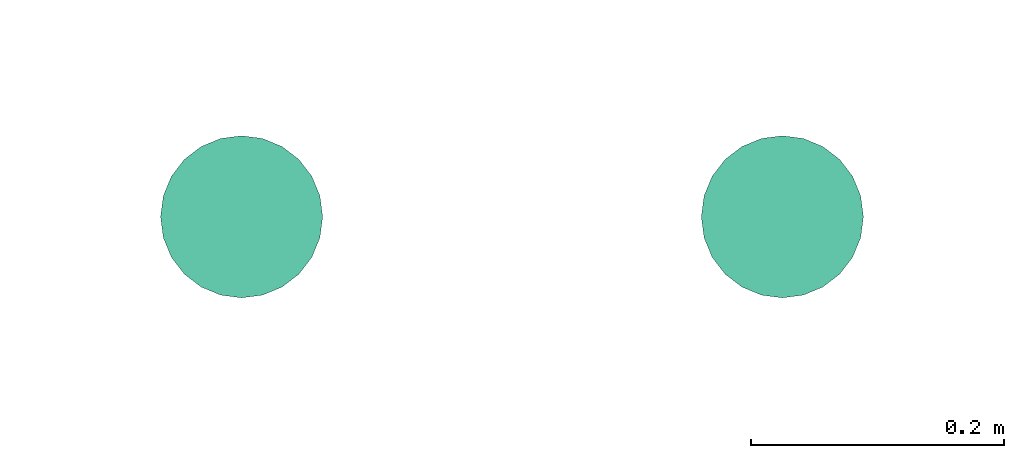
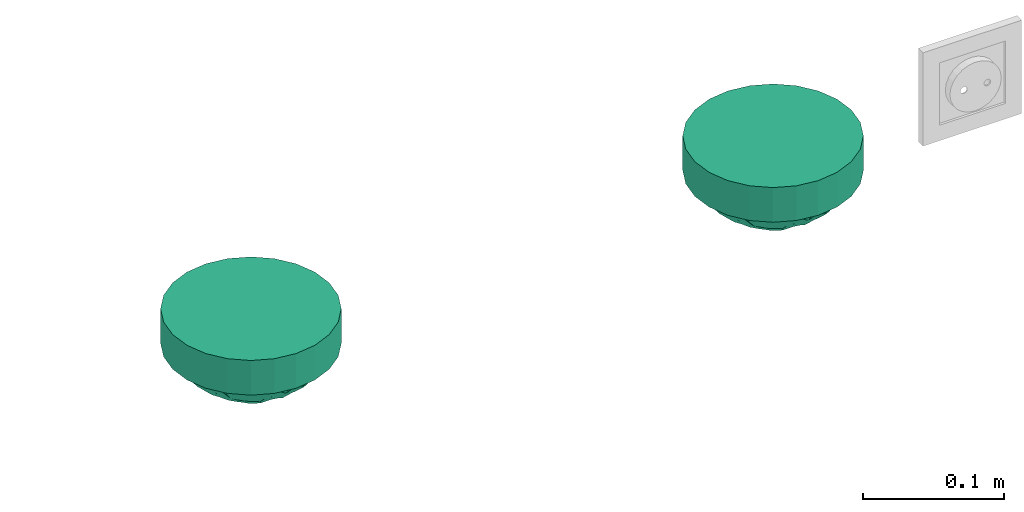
# One storey, part 30 of 146: 2 flow terminals.
"""IFC2X3 building model written with IfcOpenShell, lengths in metres."""

from ifc_helpers import new_model, entity, si_unit, converted_unit, derived_unit, direction, frame, origin, place, context, subcontext, project, spatial, faceted_brep, source, transform, mapped, type_object, type_shapes, element, save


model = new_model("IFC2X3")

# Units and contexts
model_context = context("Model", 3, precision=1e-05, world=origin(), true_north=direction((6.12303176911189e-17, 1.0)))
body_context = subcontext(model_context, "Body", "Model", "MODEL_VIEW")
ifc_project = project(units=[si_unit("LENGTHUNIT", "METRE"), si_unit("AREAUNIT", "SQUARE_METRE"), si_unit("VOLUMEUNIT", "CUBIC_METRE"), converted_unit("PLANEANGLEUNIT", "DEGREE", entity("IfcRatioMeasure", 0.0174532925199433), si_unit("PLANEANGLEUNIT", "RADIAN"), dimensions=[0, 0, 0, 0, 0, 0, 0]), si_unit("MASSUNIT", "GRAM", prefix="KILO"), derived_unit("MASSDENSITYUNIT", [(si_unit("MASSUNIT", "GRAM", prefix="KILO"), 1), (si_unit("LENGTHUNIT", "METRE"), -3)]), si_unit("TIMEUNIT", "SECOND"), si_unit("FREQUENCYUNIT", "HERTZ"), si_unit("THERMODYNAMICTEMPERATUREUNIT", "DEGREE_CELSIUS"), derived_unit("THERMALTRANSMITTANCEUNIT", [(si_unit("MASSUNIT", "GRAM", prefix="KILO"), 1), (si_unit("THERMODYNAMICTEMPERATUREUNIT", "KELVIN"), -1), (si_unit("TIMEUNIT", "SECOND"), -3)]), derived_unit("VOLUMETRICFLOWRATEUNIT", [(si_unit("LENGTHUNIT", "METRE"), 3), (si_unit("TIMEUNIT", "SECOND"), -1)]), si_unit("ELECTRICCURRENTUNIT", "AMPERE"), si_unit("ELECTRICVOLTAGEUNIT", "VOLT"), si_unit("POWERUNIT", "WATT"), si_unit("FORCEUNIT", "NEWTON"), si_unit("ILLUMINANCEUNIT", "LUX"), si_unit("LUMINOUSFLUXUNIT", "LUMEN"), si_unit("LUMINOUSINTENSITYUNIT", "CANDELA"), derived_unit("USERDEFINED", [(si_unit("MASSUNIT", "GRAM", prefix="KILO"), -1), (si_unit("LENGTHUNIT", "METRE"), -2), (si_unit("TIMEUNIT", "SECOND"), 3), (si_unit("LUMINOUSFLUXUNIT", "LUMEN"), 1)]), derived_unit("LINEARVELOCITYUNIT", [(si_unit("LENGTHUNIT", "METRE"), 1), (si_unit("TIMEUNIT", "SECOND"), -1)]), si_unit("PRESSUREUNIT", "PASCAL"), derived_unit("USERDEFINED", [(si_unit("LENGTHUNIT", "METRE"), -2), (si_unit("MASSUNIT", "GRAM", prefix="KILO"), 1), (si_unit("TIMEUNIT", "SECOND"), -2)])], contexts=[model_context])

# Site, building, storey
site_placement = place(None, origin())
site = spatial("IfcSite", under=ifc_project, at=site_placement, Name="Default", CompositionType="ELEMENT")
building_placement = place(site_placement, origin())
building = spatial("IfcBuilding", under=site, at=building_placement, CompositionType="ELEMENT")
storey_placement = place(building_placement, origin())
storey = spatial("IfcBuildingStorey", under=building, at=storey_placement, Name="S01", CompositionType="ELEMENT", Elevation=0.0)

# Flow terminals
light_fixture_type = type_object("IfcLightFixtureType", Name="Détecteur 360°", PredefinedType="NOTDEFINED")
shared_shape = source(origin(), body_context, "Body", "Brep", [
    faceted_brep([(0.0, -0.0397165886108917, 0.0531256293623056), (0.0, -0.034524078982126, 0.0563702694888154), (-0.0175153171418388, -0.0435914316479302, 0.0478512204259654), (-0.0194029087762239, -0.000878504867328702, 0.0644483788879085), (0.0, 0.0, 0.0669999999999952), (0.0, 0.00603476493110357, 0.0659648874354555), (-0.0174057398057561, -0.0159851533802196, 0.0630502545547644), (-0.0366619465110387, -0.0127227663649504, 0.0549213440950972), (-0.026998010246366, -0.0195753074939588, 0.0584711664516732), (-0.0202403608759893, -0.0335607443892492, 0.054639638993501), (-0.0359767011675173, -0.0348394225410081, 0.0444249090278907), (-0.0276843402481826, -0.0401006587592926, 0.0459804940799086), (-0.0133088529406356, -0.0517577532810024, 0.0400582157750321), (-0.0172617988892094, -0.0486391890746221, 0.042533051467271), (-0.0256912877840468, -0.0533485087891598, 0.0299999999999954), (-0.0462941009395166, -0.0369183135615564, 0.0299999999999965), (0.0, -0.0241390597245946, 0.0628595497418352), (-0.0186245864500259, -0.0267295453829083, 0.0589100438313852), (-0.0139070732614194, -0.0374370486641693, 0.0540817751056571), (0.0, 0.0449090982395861, 0.049880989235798), (-0.0172618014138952, 0.0486391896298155, 0.0425330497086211), (0.0, 0.0397165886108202, 0.0531256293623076), (-0.0186245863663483, 0.0267295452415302, 0.0589100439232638), (-0.0202403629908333, 0.0335607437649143, 0.054639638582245), (-0.0353547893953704, 0.0284533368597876, 0.0494330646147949), (0.0, 0.0120695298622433, 0.0649297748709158), (-0.0249385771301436, 0.0204731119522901, 0.0590841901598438), (-0.0191783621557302, 0.0150189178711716, 0.062775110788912), (-0.0465404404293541, -0.0196510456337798, 0.0438984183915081), (-0.052010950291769, -0.0250471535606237, 0.029999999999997), (-0.0453471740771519, -0.0286501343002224, 0.0397747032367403), (-0.0365036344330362, -0.0226255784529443, 0.0516441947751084), (-0.0175153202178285, 0.0435914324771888, 0.0478512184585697), (-0.0359926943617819, 0.0451334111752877, 0.0299999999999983), (-0.0276843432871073, 0.0401006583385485, 0.0459804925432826), (-0.00849704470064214, -0.0572729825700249, 0.0299999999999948), (0.0, -0.0592123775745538, 0.0299999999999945), (0.0, -0.0545512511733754, 0.0364787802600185), (0.0, -0.049890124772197, 0.0429575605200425), (-0.0169940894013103, -0.055333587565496, 0.0299999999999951), (-0.0359767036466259, 0.0348394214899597, 0.0444249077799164), (-0.025691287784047, 0.0533485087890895, 0.0299999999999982), (-0.0308419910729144, 0.0492409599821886, 0.0299999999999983), (-0.0130265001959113, 0.0514867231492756, 0.040526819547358), (-0.0169940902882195, 0.0553335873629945, 0.029999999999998), (0.0, 0.0498901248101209, 0.0429575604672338), (-0.0353547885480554, -0.0284533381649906, 0.0494330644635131), (0.0, 0.0181042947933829, 0.0638946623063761), (-0.0473669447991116, -0.00128092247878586, 0.0474310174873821), (-0.0485435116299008, -0.00908961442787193, 0.0452357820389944), (-0.0366597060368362, -0.0032867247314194, 0.0563153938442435), (-0.0226425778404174, -0.0107553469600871, 0.0624973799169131), (0.0, -0.00603476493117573, 0.0659648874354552), (0.0, 0.0293315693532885, 0.0596149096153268), (-0.0139070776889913, 0.0374370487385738, 0.0540817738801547), (-0.0449600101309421, 0.018422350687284, 0.0461366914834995), (-0.0453471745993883, 0.0286501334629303, 0.0397747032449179), (-0.0476906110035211, 0.00670602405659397, 0.0466053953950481), (-0.0577277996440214, 0.0131759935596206, 0.0299999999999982), (-0.0577277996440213, 0.00658799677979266, 0.029999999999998), (-0.0577277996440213, 0.0, 0.0299999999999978), (0.0, -0.0449090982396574, 0.0498809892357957), (-0.0308419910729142, -0.049240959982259, 0.0299999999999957), (-0.0359926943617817, -0.0451334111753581, 0.029999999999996), (0.0, 0.0345240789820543, 0.0563702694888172), (-0.0411433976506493, 0.0410258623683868, 0.0299999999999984), (-0.0462941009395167, 0.0369183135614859, 0.0299999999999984), (-0.0491525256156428, -0.03098273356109, 0.0299999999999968), (-0.0577277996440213, -0.0131759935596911, 0.0299999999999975), (0.0, -0.018104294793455, 0.0638946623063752), (-0.0377433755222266, 0.0044838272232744, 0.0554913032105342), (-0.0577277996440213, -0.00658799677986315, 0.0299999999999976), (-0.0385149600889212, 0.0124844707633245, 0.0536578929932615), (-0.0491525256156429, 0.0309827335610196, 0.0299999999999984), (-0.0548693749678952, 0.0191115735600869, 0.0299999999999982), (0.0, 0.0241390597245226, 0.0628595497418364), (-0.014625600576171, 0.0100436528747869, 0.0649170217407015), (-0.0271766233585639, 0.00920278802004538, 0.0609170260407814), (0.0, -0.0120695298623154, 0.0649297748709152), (-0.0520109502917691, 0.0250471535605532, 0.0299999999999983), (-0.0411433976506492, -0.0410258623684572, 0.0299999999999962), (-0.0548693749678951, -0.0191115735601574, 0.0299999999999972), (0.0, -0.0293315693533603, 0.0596149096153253), (0.0, 0.0545512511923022, 0.0364787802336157), (0.0, 0.0592123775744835, 0.0299999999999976), (-0.00849704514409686, 0.057272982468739, 0.0299999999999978), (-0.0127455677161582, 0.0563032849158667, 0.0299999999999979), (-0.0213426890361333, 0.054341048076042, 0.0299999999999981), (0.0175153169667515, 0.0435914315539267, 0.0478512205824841), (0.0194029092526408, 0.000878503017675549, 0.0644483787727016), (0.017405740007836, 0.0159851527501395, 0.0630502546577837), (0.0366619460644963, 0.012722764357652, 0.0549213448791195), (0.0269980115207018, 0.0195753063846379, 0.0584711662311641), (0.0202403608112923, 0.0335607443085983, 0.0546396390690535), (0.0359767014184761, 0.0348394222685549, 0.0444249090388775), (0.0276843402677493, 0.0401006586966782, 0.0459804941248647), (0.0133088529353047, 0.0517577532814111, 0.0400582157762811), (0.0172617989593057, 0.0486391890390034, 0.0425330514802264), (0.0256912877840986, 0.0533485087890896, 0.0299999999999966), (0.0462941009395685, 0.0369183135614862, 0.0299999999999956), (0.00849704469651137, 0.0572729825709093, 0.0299999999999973), (0.0169940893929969, 0.0553335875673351, 0.029999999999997), (0.0172617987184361, -0.0486391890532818, 0.0425330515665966), (0.025691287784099, -0.0533485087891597, 0.0299999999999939), (0.0308419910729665, -0.0492409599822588, 0.0299999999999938), (0.0175153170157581, -0.0435914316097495, 0.0478512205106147), (0.0186245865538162, -0.0267295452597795, 0.0589100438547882), (0.0202403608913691, -0.03356074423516, 0.0546396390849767), (0.0353547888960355, -0.0284533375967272, 0.0494330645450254), (0.0249385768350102, -0.0204731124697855, 0.0590841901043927), (0.0191783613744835, -0.0150189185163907, 0.062775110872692), (0.0465404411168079, 0.0196510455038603, 0.0438984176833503), (0.0577277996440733, 0.0131759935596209, 0.0299999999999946), (0.0548693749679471, 0.0191115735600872, 0.0299999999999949), (0.0520109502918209, 0.0250471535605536, 0.0299999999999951), (0.0365036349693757, 0.0226255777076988, 0.0516441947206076), (0.0186245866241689, 0.0267295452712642, 0.0589100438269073), (0.0359926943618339, -0.0451334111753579, 0.0299999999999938), (0.0276843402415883, -0.0401006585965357, 0.0459804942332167), (0.0139070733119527, 0.0374370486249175, 0.0540817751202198), (0.0359767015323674, -0.0348394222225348, 0.044424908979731), (0.0226425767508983, 0.0107553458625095, 0.0624973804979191), (0.0169940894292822, -0.0553335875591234, 0.0299999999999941), (0.0130264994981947, -0.0514867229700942, 0.0405268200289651), (0.0453471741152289, 0.0286501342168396, 0.039774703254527), (0.0353547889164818, 0.0284533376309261, 0.0494330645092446), (0.0473669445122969, 0.00128092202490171, 0.0474310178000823), (0.0485435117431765, 0.00908961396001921, 0.0452357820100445), (0.0366597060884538, 0.00328672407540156, 0.0563153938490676), (0.0139070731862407, -0.0374370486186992, 0.0540817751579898), (0.0449600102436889, -0.018422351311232, 0.0461366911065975), (0.0453471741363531, -0.0286501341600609, 0.039774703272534), (0.0476906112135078, -0.00670602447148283, 0.046605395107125), (0.0577277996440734, -0.0131759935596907, 0.0299999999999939), (0.0577277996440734, -0.00658799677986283, 0.0299999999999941), (0.0577277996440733, 0.0, 0.0299999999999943), (0.0308419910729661, 0.0492409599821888, 0.0299999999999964), (0.0359926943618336, 0.0451334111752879, 0.0299999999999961), (0.0411433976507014, -0.041025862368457, 0.0299999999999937), (0.0462941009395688, -0.0369183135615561, 0.0299999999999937), (0.0491525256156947, 0.0309827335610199, 0.0299999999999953), (0.037743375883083, -0.00448382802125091, 0.0554913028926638), (0.0577277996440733, 0.00658799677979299, 0.0299999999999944), (0.0385149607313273, -0.0124844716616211, 0.0536578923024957), (0.049152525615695, -0.0309827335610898, 0.0299999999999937), (0.0548693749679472, -0.0191115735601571, 0.0299999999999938), (0.0146256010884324, -0.0100436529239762, 0.0649170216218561), (0.0271766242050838, -0.00920278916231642, 0.0609170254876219), (0.0520109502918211, -0.0250471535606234, 0.0299999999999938), (0.041143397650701, 0.0410258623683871, 0.0299999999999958), (0.00849704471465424, -0.0572729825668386, 0.0299999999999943), (0.0127455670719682, -0.056303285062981, 0.0299999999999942), (0.0213426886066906, -0.0543410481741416, 0.029999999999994), (0.0, 0.0, 0.0299999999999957)], [[[0, 1, 2]], [[3, 4, 5]], [[6, 7, 8]], [[9, 10, 11]], [[12, 13, 14]], [[10, 15, 11]], [[9, 16, 17]], [[18, 9, 11]], [[19, 20, 21]], [[22, 23, 24]], [[25, 26, 27]], [[28, 29, 30]], [[8, 31, 17]], [[32, 33, 34]], [[35, 36, 37, 38, 39]], [[23, 40, 24]], [[20, 41, 42]], [[19, 43, 20]], [[44, 43, 45]], [[20, 32, 21]], [[30, 10, 46]], [[22, 26, 47]], [[48, 49, 50]], [[3, 51, 52]], [[53, 54, 23]], [[55, 24, 56]], [[57, 58, 59, 60]], [[13, 61, 0]], [[13, 0, 2]], [[2, 62, 13]], [[18, 2, 1]], [[2, 11, 63]], [[32, 64, 21]], [[32, 42, 33]], [[34, 33, 65, 66]], [[20, 42, 32]], [[54, 32, 34]], [[28, 30, 31]], [[10, 67, 15]], [[49, 68, 28]], [[8, 17, 69]], [[7, 6, 51]], [[28, 31, 7]], [[57, 48, 70]], [[58, 57, 55]], [[48, 71, 49]], [[70, 48, 50]], [[3, 50, 51]], [[55, 26, 24]], [[72, 57, 70]], [[26, 55, 72]], [[56, 40, 73]], [[56, 74, 55]], [[47, 75, 22]], [[52, 4, 3]], [[7, 50, 49]], [[5, 76, 3]], [[70, 3, 77]], [[51, 78, 52]], [[26, 25, 47]], [[76, 25, 27]], [[23, 22, 75]], [[26, 22, 24]], [[53, 64, 54]], [[23, 34, 40]], [[66, 40, 34]], [[40, 66, 73]], [[56, 73, 79, 74]], [[72, 27, 26]], [[40, 56, 24]], [[23, 75, 53]], [[69, 17, 16]], [[78, 6, 69]], [[46, 10, 9]], [[46, 9, 17]], [[50, 7, 51]], [[30, 29, 67]], [[80, 63, 11, 15]], [[28, 68, 81, 29]], [[10, 30, 67]], [[30, 46, 31]], [[82, 18, 1]], [[82, 16, 9]], [[28, 7, 49]], [[12, 39, 38]], [[61, 13, 12]], [[83, 84, 85, 86, 44, 45]], [[43, 41, 20]], [[44, 87, 41, 43]], [[32, 54, 64]], [[23, 54, 34]], [[9, 18, 82]], [[2, 18, 11]], [[39, 12, 14]], [[38, 61, 12]], [[62, 2, 63]], [[62, 14, 13]], [[17, 31, 46]], [[7, 31, 8]], [[48, 60, 71]], [[71, 68, 49]], [[60, 48, 57]], [[3, 70, 50]], [[72, 70, 77]], [[72, 77, 27]], [[55, 57, 72]], [[74, 58, 55]], [[76, 27, 77]], [[3, 76, 77]], [[25, 76, 5]], [[69, 6, 8]], [[78, 51, 6]], [[45, 43, 19]], [[21, 64, 88]], [[89, 4, 52]], [[90, 91, 92]], [[93, 94, 95]], [[96, 97, 98]], [[94, 99, 95]], [[100, 84, 83, 45, 101]], [[102, 103, 104]], [[102, 105, 0]], [[106, 107, 108]], [[78, 109, 110]], [[111, 112, 113, 114]], [[92, 115, 116]], [[105, 117, 118]], [[119, 93, 95]], [[107, 120, 108]], [[89, 121, 5]], [[122, 123, 38]], [[61, 123, 102]], [[93, 75, 116]], [[124, 94, 125]], [[106, 109, 69]], [[126, 127, 128]], [[61, 102, 0]], [[82, 129, 107]], [[130, 108, 131]], [[132, 133, 134, 135]], [[97, 19, 21]], [[97, 21, 88]], [[88, 136, 97]], [[119, 88, 64]], [[88, 95, 137]], [[105, 1, 0]], [[105, 104, 117]], [[118, 117, 138, 139]], [[102, 104, 105]], [[129, 105, 118]], [[111, 124, 115]], [[94, 140, 99]], [[127, 112, 111]], [[92, 116, 47]], [[91, 90, 121]], [[111, 115, 91]], [[132, 126, 141]], [[133, 132, 130]], [[126, 142, 127]], [[141, 126, 128]], [[89, 128, 121]], [[130, 109, 108]], [[143, 132, 141]], [[109, 130, 143]], [[131, 120, 144]], [[131, 145, 130]], [[69, 16, 106]], [[5, 4, 89]], [[91, 128, 127]], [[52, 146, 89]], [[141, 89, 147]], [[121, 25, 5]], [[109, 78, 69]], [[146, 78, 110]], [[107, 106, 16]], [[109, 106, 108]], [[82, 1, 129]], [[107, 118, 120]], [[139, 120, 118]], [[120, 139, 144]], [[131, 144, 148, 145]], [[143, 110, 109]], [[120, 131, 108]], [[107, 16, 82]], [[47, 116, 75]], [[25, 90, 47]], [[125, 94, 93]], [[125, 93, 116]], [[128, 91, 121]], [[124, 114, 140]], [[149, 137, 95, 99]], [[111, 114, 124]], [[94, 124, 140]], [[124, 125, 115]], [[53, 119, 64]], [[53, 75, 93]], [[111, 91, 127]], [[96, 101, 45]], [[19, 97, 96]], [[37, 36, 150, 151, 122, 38]], [[123, 103, 102]], [[122, 152, 103, 123]], [[105, 129, 1]], [[107, 129, 118]], [[93, 119, 53]], [[88, 119, 95]], [[101, 96, 98]], [[45, 19, 96]], [[136, 88, 137]], [[136, 98, 97]], [[116, 115, 125]], [[91, 115, 92]], [[126, 135, 142]], [[142, 112, 127]], [[135, 126, 132]], [[89, 141, 128]], [[143, 141, 147]], [[143, 147, 110]], [[130, 132, 143]], [[145, 133, 130]], [[146, 110, 147]], [[89, 146, 147]], [[78, 146, 52]], [[47, 90, 92]], [[25, 121, 90]], [[38, 123, 61]], [[153, 66, 65]], [[153, 65, 33]], [[153, 33, 42]], [[153, 42, 41]], [[153, 41, 87]], [[153, 73, 66]], [[153, 79, 73]], [[153, 74, 79]], [[153, 58, 74]], [[153, 87, 44]], [[153, 44, 86]], [[153, 86, 85]], [[153, 85, 84]], [[153, 84, 100]], [[153, 59, 58]], [[153, 60, 59]], [[153, 71, 60]], [[153, 68, 71]], [[153, 81, 68]], [[153, 29, 81]], [[153, 67, 29]], [[153, 15, 67]], [[153, 80, 15]], [[153, 63, 80]], [[153, 62, 63]], [[153, 14, 62]], [[153, 39, 14]], [[153, 35, 39]], [[153, 36, 35]], [[153, 100, 101]], [[153, 101, 98]], [[153, 98, 136]], [[153, 136, 137]], [[153, 137, 149]], [[153, 149, 99]], [[153, 99, 140]], [[153, 140, 114]], [[153, 114, 113]], [[153, 113, 112]], [[153, 112, 142]], [[153, 150, 36]], [[153, 151, 150]], [[153, 122, 151]], [[153, 152, 122]], [[153, 103, 152]], [[153, 104, 103]], [[153, 117, 104]], [[153, 138, 117]], [[153, 139, 138]], [[153, 144, 139]], [[153, 148, 144]], [[153, 145, 148]], [[153, 133, 145]], [[153, 142, 135]], [[153, 135, 134]], [[153, 134, 133]]]),
    faceted_brep([(0.0165644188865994, -0.0618192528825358, 0.029999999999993), (0.0320000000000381, -0.0554256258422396, 0.0299999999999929), (0.0452548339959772, -0.0452548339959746, 0.0299999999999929), (0.0554256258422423, -0.0320000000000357, 0.029999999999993), (0.0618192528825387, -0.016564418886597, 0.0299999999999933), (0.0640000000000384, 0.0, 0.0299999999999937), (0.0618192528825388, 0.016564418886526, 0.0299999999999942), (0.0554256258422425, 0.0319999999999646, 0.0299999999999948), (0.0452548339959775, 0.0452548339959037, 0.0299999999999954), (0.0320000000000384, 0.0554256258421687, 0.0299999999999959), (0.0165644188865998, 0.061819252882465, 0.0299999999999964), (0.0, 0.0639999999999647, 0.0299999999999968), (-0.0165644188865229, 0.061819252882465, 0.0299999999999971), (-0.0319999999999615, 0.0554256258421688, 0.0299999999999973), (-0.0452548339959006, 0.0452548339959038, 0.0299999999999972), (-0.0554256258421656, 0.0319999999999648, 0.0299999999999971), (-0.0618192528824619, 0.0165644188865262, 0.0299999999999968), (-0.0639999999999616, 0.0, 0.0299999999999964), (-0.061819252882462, -0.0165644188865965, 0.0299999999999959), (-0.0554256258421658, -0.0320000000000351, 0.0299999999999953), (-0.0452548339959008, -0.0452548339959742, 0.0299999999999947), (-0.0319999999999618, -0.0554256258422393, 0.0299999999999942), (-0.0165644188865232, -0.0618192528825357, 0.0299999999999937), (0.0, -0.0640000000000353, 0.0299999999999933), (0.0165644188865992, 0.0618192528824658, 0.0), (0.0320000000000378, 0.0554256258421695, 0.0), (0.0452548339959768, 0.0452548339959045, 0.0), (0.0554256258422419, 0.0319999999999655, 0.0), (0.0618192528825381, 0.0165644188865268, 0.0), (0.0640000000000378, 0.0, 0.0), (0.061819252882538, -0.0165644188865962, 0.0), (0.0554256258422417, -0.0320000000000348, 0.0), (0.0452548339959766, -0.0452548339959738, 0.0), (0.0320000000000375, -0.0554256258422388, 0.0), (0.0165644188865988, -0.061819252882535, 0.0), (0.0, -0.0640000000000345, 0.0), (-0.0165644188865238, -0.0618192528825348, 0.0), (-0.0319999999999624, -0.0554256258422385, 0.0), (-0.0452548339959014, -0.0452548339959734, 0.0), (-0.0554256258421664, -0.0320000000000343, 0.0), (-0.0618192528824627, -0.0165644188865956, 0.0), (-0.0639999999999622, 0.0, 0.0), (-0.0618192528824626, 0.016564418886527, 0.0), (-0.0554256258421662, 0.0319999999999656, 0.0), (-0.0452548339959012, 0.0452548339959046, 0.0), (-0.0319999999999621, 0.0554256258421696, 0.0), (-0.0165644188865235, 0.0618192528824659, 0.0), (0.0, 0.0639999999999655, 0.0)], [[[0, 1, 2, 3, 4, 5, 6, 7, 8, 9, 10, 11, 12, 13, 14, 15, 16, 17, 18, 19, 20, 21, 22, 23]], [[24, 25, 26, 27, 28, 29, 30, 31, 32, 33, 34, 35, 36, 37, 38, 39, 40, 41, 42, 43, 44, 45, 46, 47]], [[40, 18, 17, 41]], [[39, 19, 18, 40]], [[21, 20, 38, 37]], [[39, 38, 20, 19]], [[22, 21, 37, 36]], [[23, 22, 36, 35]], [[34, 0, 23, 35]], [[33, 1, 0, 34]], [[3, 2, 32, 31]], [[33, 32, 2, 1]], [[4, 3, 31, 30]], [[5, 4, 30, 29]], [[28, 6, 5, 29]], [[27, 7, 6, 28]], [[9, 8, 26, 25]], [[27, 26, 8, 7]], [[10, 9, 25, 24]], [[11, 10, 24, 47]], [[46, 12, 11, 47]], [[45, 13, 12, 46]], [[42, 41, 17, 16]], [[44, 14, 13, 45]], [[43, 15, 14, 44]], [[43, 42, 16, 15]]]),
])
type_shapes(light_fixture_type, [shared_shape])
for number, where, z_axis, x_axis in (
    (1, (46.4587436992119, -190.312488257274, 2.4), (0.0, 0.0, -1.0), (1.0, 0.0, 0.0)),
    (2, (46.0317436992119, -190.312488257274, 2.4), (0.0, 0.0, -1.0), (1.0, 0.0, 0.0)),
):
    element("IfcFlowTerminal", number, at=place(storey_placement, frame(where, z_axis=z_axis, x_axis=x_axis)), inside=storey, type_object=light_fixture_type, Name="INT - Détecteur 360°:Détecteur 360°", ObjectType="INT - Détecteur 360°:Détecteur 360°", context=body_context, shape_type="MappedRepresentation", body=[
        mapped(shared_shape, transform((0.0, 0.0, 0.0), scale=1.0)),
    ])

save(model, "model.ifc")
